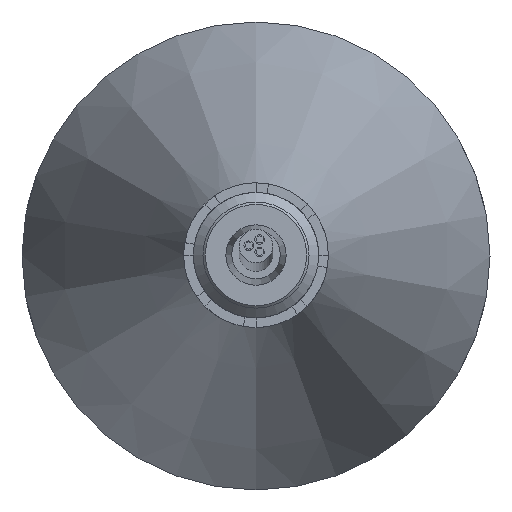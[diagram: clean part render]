
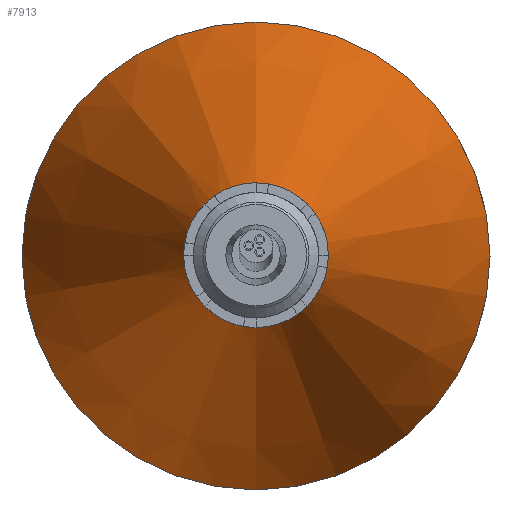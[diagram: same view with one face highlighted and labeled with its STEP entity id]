
A CAD part, top view. The second image highlights one B-rep face of the part: STEP entity #7913.
In plain terms, the highlighted conical face has half-angle 20.109 degrees and reference radius 31.75 mm.
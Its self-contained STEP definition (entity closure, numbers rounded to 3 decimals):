
#2680 = AXIS2_PLACEMENT_3D ( 'NONE', #37181, #16076, #31957 ) ;
#2884 = CARTESIAN_POINT ( 'NONE',  ( 0., -48.5, 48.5 ) ) ;
#4645 = ORIENTED_EDGE ( 'NONE', *, *, #23419, .T. ) ;
#5772 = VERTEX_POINT ( 'NONE', #2884 ) ;
#7913 = ADVANCED_FACE ( 'NONE', ( #24223, #16149 ), #12455, .T. ) ;
#9193 = EDGE_LOOP ( 'NONE', ( #4645 ) ) ;
#12455 = CONICAL_SURFACE ( 'NONE', #31453, 31.75, 0.351 ) ;
#13298 = DIRECTION ( 'NONE',  ( 0., 0., -1. ) ) ;
#14534 = EDGE_LOOP ( 'NONE', ( #35627 ) ) ;
#15591 = DIRECTION ( 'NONE',  ( 0., 1., 0. ) ) ;
#16076 = DIRECTION ( 'NONE',  ( 0., 0., -1. ) ) ;
#16149 = FACE_BOUND ( 'NONE', #14534, .T. ) ;
#19119 = EDGE_CURVE ( 'NONE', #29075, #29075, #19125, .T. ) ;
#19125 = CIRCLE ( 'NONE', #2680, 15. ) ;
#20746 = CIRCLE ( 'NONE', #21965, 48.5 ) ;
#21698 = CARTESIAN_POINT ( 'NONE',  ( 0., 0., 48.5 ) ) ;
#21965 = AXIS2_PLACEMENT_3D ( 'NONE', #21698, #36061, #24365 ) ;
#23419 = EDGE_CURVE ( 'NONE', #5772, #5772, #20746, .T. ) ;
#23512 = CARTESIAN_POINT ( 'NONE',  ( 0., -15., 140. ) ) ;
#24223 = FACE_OUTER_BOUND ( 'NONE', #9193, .T. ) ;
#24365 = DIRECTION ( 'NONE',  ( 0., -1., 0. ) ) ;
#27674 = CARTESIAN_POINT ( 'NONE',  ( 0., 0., 94.25 ) ) ;
#29075 = VERTEX_POINT ( 'NONE', #23512 ) ;
#31453 = AXIS2_PLACEMENT_3D ( 'NONE', #27674, #13298, #15591 ) ;
#31957 = DIRECTION ( 'NONE',  ( 0., -1., 0. ) ) ;
#35627 = ORIENTED_EDGE ( 'NONE', *, *, #19119, .T. ) ;
#36061 = DIRECTION ( 'NONE',  ( 0., 0., 1. ) ) ;
#37181 = CARTESIAN_POINT ( 'NONE',  ( 0., 0., 140. ) ) ;
